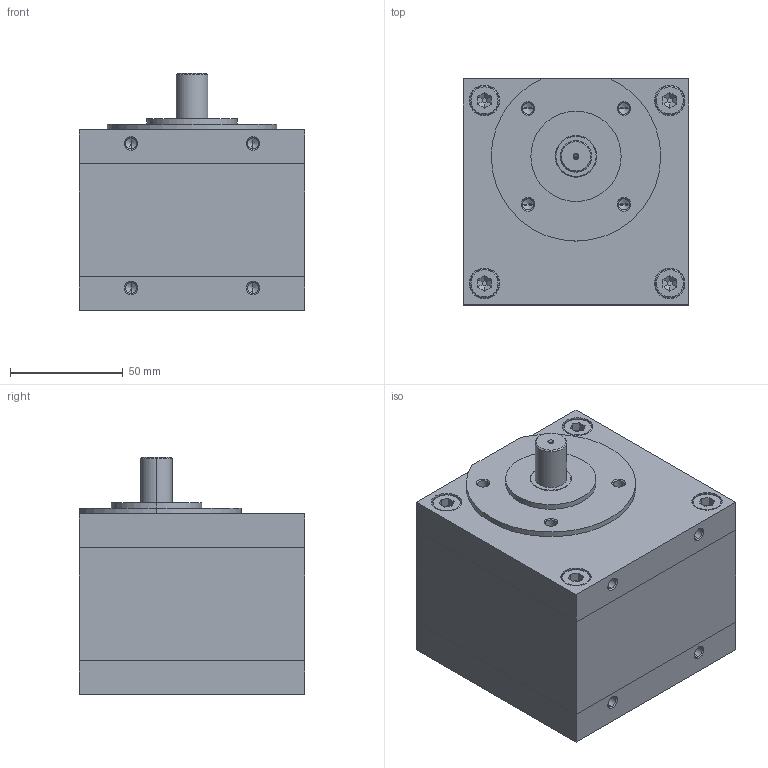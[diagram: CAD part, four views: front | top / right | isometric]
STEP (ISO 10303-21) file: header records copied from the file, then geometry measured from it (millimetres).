
FILE_DESCRIPTION (( 'STEP AP214' ), '1' );
FILE_NAME ('M189_4-5-6 stufig.STEP', '2012-04-11T04:41:52', ( ' ' ), ( '' ), 'SwSTEP 2.0', 'SolidWorks 2010', '' );
FILE_SCHEMA (( 'AUTOMOTIVE_DESIGN' ));
Length unit declared in the file: millimetre
Products named in the file (1): M189_4-5-6 stufig
Bounding box: 100 x 100 x 105 mm (x, y, z)
Volume: 803298.6 mm3; surface area: 62745.1 mm2
Topology: 1 solids, 5 shells, 206 faces, 452 edges, 259 vertices
Faces by surface type: plane 88, cylinder 62, cone 48, torus 8
Entity records: 5673 total; most frequent: DIRECTION 1004, CARTESIAN_POINT 892, ORIENTED_EDGE 852, EDGE_CURVE 426, AXIS2_PLACEMENT_3D 371, LINE 262, VECTOR 262, VERTEX_POINT 259
